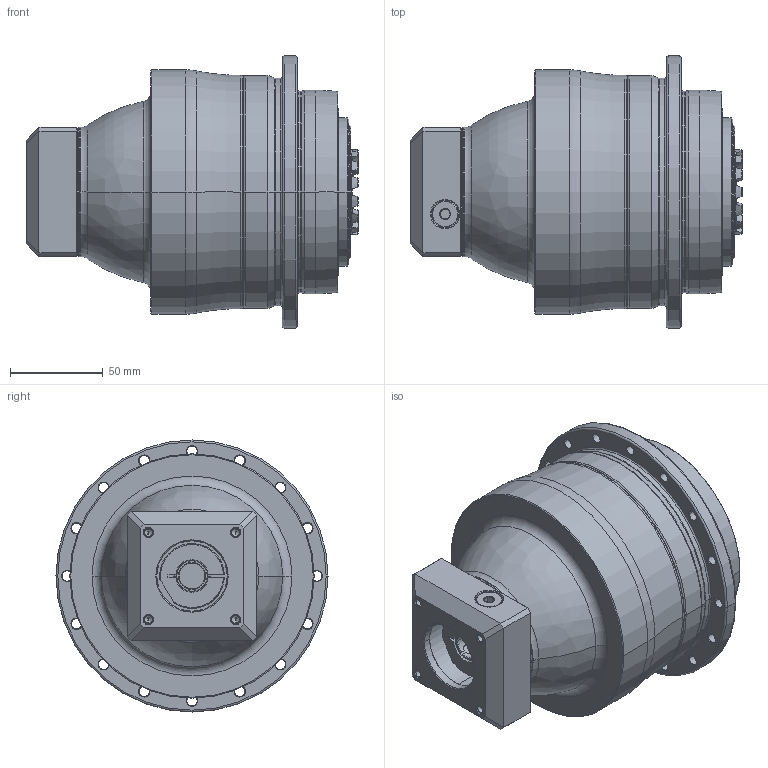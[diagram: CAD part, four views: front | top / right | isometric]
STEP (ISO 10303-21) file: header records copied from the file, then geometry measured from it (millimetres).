
FILE_DESCRIPTION((''),'2;1');
FILE_NAME('APC110_3ST_14-P0409300201_ASM','2018-07-02T',('d01226'),(''),'PRO/ENGINEER BY PARAMETRIC TECHNOLOGY CORPORATION, 2008410','PRO/ENGINEER BY PARAMETRIC TECHNOLOGY CORPORATION, 2008410','');
FILE_SCHEMA(('CONFIG_CONTROL_DESIGN'));
Length unit declared in the file: millimetre
Products named in the file (9): P0278401003; P03594C0103; P1366400201; P0503300005; P0912202001; P1211400001; P0409300201; 21711410012; APC110_3ST_14-P0409300201_ASM
Assembly tree (8 placements, depth 2):
  APC110_3ST_14-P0409300201_ASM
    P0278401003
    P03594C0103
    P1366400201
    P0503300005
    P0912202001
    P1211400001
    P0409300201
    21711410012
Bounding box: 179.4 x 147 x 147 mm (x, y, z)
Volume: 1604053.7 mm3; surface area: 182287.7 mm2
Topology: 9 solids, 19 shells, 615 faces, 1471 edges, 895 vertices
Faces by surface type: cylinder 190, cone 190, plane 117, torus 102, bspline 16
Entity records: 22838 total; most frequent: CARTESIAN_POINT 8212, DIRECTION 3271, ORIENTED_EDGE 2864, EDGE_CURVE 1453, AXIS2_PLACEMENT_3D 1423, VERTEX_POINT 895, CIRCLE 797, EDGE_LOOP 700
